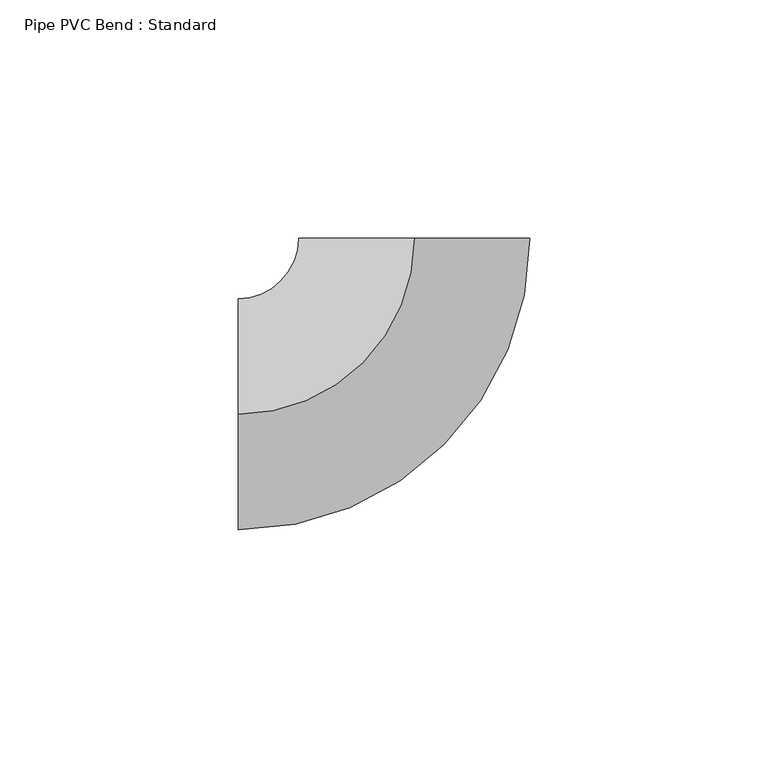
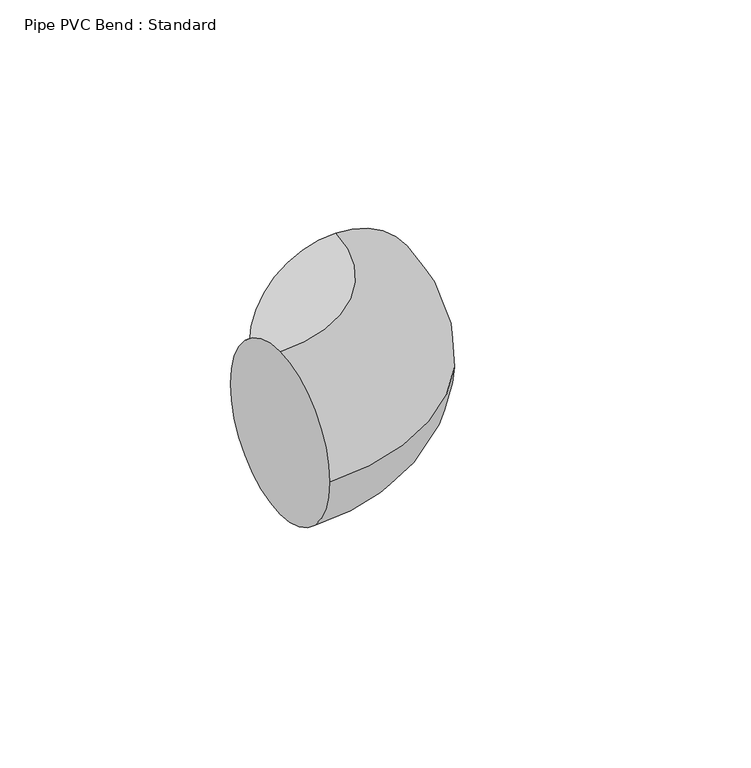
"""IFC4 building model written with IfcOpenShell, lengths in millimetres: pipe fitting geometry, Pipe PVC Bend : Standard."""

from ifc_helpers import new_model, si_unit, point, frame, origin, place, context, project, spatial, circle_curve, ellipse_curve, trimmed, source, transform, mapped, element, save
from ifc_brep_helpers import plane_surface, revolved_surface, advanced_brep


def pipe_pvc_bend_standard_46eee2b6(model_context):
    return source(origin(), model_context, "Body", "AdvancedBrep", [
        advanced_brep(
        [(-36.9550309, 0.0, 24.257), (-36.9550309, 24.257, 0.0), (-36.9550309, 0.0, -24.257), (-36.9550309, -24.257, 0.0), (0.001969, 36.9550309, 24.257), (24.258969, 36.9537384, 0.0), (0.001969, 36.9550309, -24.257), (-24.255031, 36.9563233, 0.0)],
        [
            (0, 1, circle_curve(frame((-36.9550309, 0.0, 0.0), z_axis=(-1.0, 0.0, 0.0), x_axis=(0.0, 1.0, 0.0)), 24.257)),
            (1, 2, circle_curve(frame((-36.9550309, 0.0, 0.0), z_axis=(-1.0, 0.0, 0.0), x_axis=(0.0, 1.0, 0.0)), 24.257)),
            (2, 3, circle_curve(frame((-36.9550309, 0.0, 0.0), z_axis=(-1.0, 0.0, 0.0), x_axis=(0.0, 1.0, 0.0)), 24.257)),
            (3, 0, circle_curve(frame((-36.9550309, 0.0, 0.0), z_axis=(-1.0, 0.0, 0.0), x_axis=(0.0, 1.0, 0.0)), 24.257)),
            (4, 5, circle_curve(frame((0.001969, 36.9550309, 0.0), z_axis=(5.328116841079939e-05, 0.9999999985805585, 0.0), x_axis=(-0.9999999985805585, 5.328116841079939e-05, 0.0)), 24.257)),
            (5, 6, circle_curve(frame((0.001969, 36.9550309, 0.0), z_axis=(5.328116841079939e-05, 0.9999999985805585, 0.0), x_axis=(-0.9999999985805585, 5.328116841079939e-05, 0.0)), 24.257)),
            (6, 7, circle_curve(frame((0.001969, 36.9550309, 0.0), z_axis=(5.328116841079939e-05, 0.9999999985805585, 0.0), x_axis=(-0.9999999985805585, 5.328116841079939e-05, 0.0)), 24.257)),
            (7, 4, circle_curve(frame((0.001969, 36.9550309, 0.0), z_axis=(5.328116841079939e-05, 0.9999999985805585, 0.0), x_axis=(-0.9999999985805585, 5.328116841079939e-05, 0.0)), 24.257)),
            (7, 1, circle_curve(frame((-36.9550309, 36.957, 0.0), z_axis=(0.0, 0.0, -1.0), x_axis=(0.0, -1.0, 0.0)), 12.7)),
            (0, 4, circle_curve(frame((-36.9550309, 36.957, 24.257), z_axis=(0.0, 0.0, 1.0), x_axis=(0.0, -1.0, 0.0)), 36.957)),
            (6, 2, circle_curve(frame((-36.9550309, 36.957, -24.257), z_axis=(0.0, 0.0, -1.0), x_axis=(0.0, -1.0, 0.0)), 36.957)),
            (5, 3, circle_curve(frame((-36.9550309, 36.957, 0.0), z_axis=(0.0, 0.0, -1.0), x_axis=(0.0, -1.0, 0.0)), 61.214)),
        ],
        [
            plane_surface(frame((-36.9550309, 0.0, 0.0), z_axis=(-1.0, 0.0, 0.0), x_axis=(0.0, 0.0, 1.0))),
            plane_surface(frame((0.001969, 36.9550309, 0.0), z_axis=(5.3281168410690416e-05, 0.9999999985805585, 0.0), x_axis=(0.0, 0.0, 1.0))),
            revolved_surface(trimmed(ellipse_curve(frame((-36.9550309, 0.0, 0.0), z_axis=(-1.0, 0.0, 0.0), x_axis=(0.0, 1.0, 0.0)), 24.257, 24.257), [point((-36.9550309, 0.0, 24.257))], [point((-36.9550309, 24.257, 0.0))], True, "CARTESIAN"), (-36.9550309, 36.957, 0.0), (0.0, 0.0, 1.0)),
            revolved_surface(trimmed(ellipse_curve(frame((-36.9550309, 0.0, 0.0), z_axis=(-1.0, 0.0, 0.0), x_axis=(0.0, 1.0, 0.0)), 24.257, 24.257), [point((-36.9550309, 24.257, 0.0))], [point((-36.9550309, 0.0, -24.257))], True, "CARTESIAN"), (-36.9550309, 36.957, 0.0), (0.0, 0.0, 1.0)),
            revolved_surface(trimmed(ellipse_curve(frame((-36.9550309, 0.0, 0.0), z_axis=(-1.0, 0.0, 0.0), x_axis=(0.0, 1.0, 0.0)), 24.257, 24.257), [point((-36.9550309, 0.0, -24.257))], [point((-36.9550309, -24.257, 0.0))], True, "CARTESIAN"), (-36.9550309, 36.957, 0.0), (0.0, 0.0, 1.0)),
            revolved_surface(trimmed(ellipse_curve(frame((-36.9550309, 0.0, 0.0), z_axis=(-1.0, 0.0, 0.0), x_axis=(0.0, 1.0, 0.0)), 24.257, 24.257), [point((-36.9550309, -24.257, 0.0))], [point((-36.9550309, 0.0, 24.257))], True, "CARTESIAN"), (-36.9550309, 36.957, 0.0), (0.0, 0.0, 1.0)),
        ],
        [
            (0, [[1, 2, 3, 4]]),
            (1, [[5, 6, 7, 8]]),
            (2, [[9, -1, 10, -8]]),
            (3, [[11, -2, -9, -7]]),
            (4, [[12, -3, -11, -6]]),
            (5, [[-10, -4, -12, -5]]),
        ],
    ),
        advanced_brep(
        [(-36.9550309, 0.0, 24.257), (-36.9550309, 24.257, 0.0), (-36.9550309, 0.0, -24.257), (-36.9550309, -24.257, 0.0), (0.001969, 36.9550309, 24.257), (24.258969, 36.9537384, 0.0), (0.001969, 36.9550309, -24.257), (-24.255031, 36.9563233, 0.0)],
        [
            (0, 1, circle_curve(frame((-36.9550309, 0.0, 0.0), z_axis=(-1.0, 0.0, 0.0), x_axis=(0.0, 1.0, 0.0)), 24.257)),
            (1, 2, circle_curve(frame((-36.9550309, 0.0, 0.0), z_axis=(-1.0, 0.0, 0.0), x_axis=(0.0, 1.0, 0.0)), 24.257)),
            (2, 3, circle_curve(frame((-36.9550309, 0.0, 0.0), z_axis=(-1.0, 0.0, 0.0), x_axis=(0.0, 1.0, 0.0)), 24.257)),
            (3, 0, circle_curve(frame((-36.9550309, 0.0, 0.0), z_axis=(-1.0, 0.0, 0.0), x_axis=(0.0, 1.0, 0.0)), 24.257)),
            (4, 5, circle_curve(frame((0.001969, 36.9550309, 0.0), z_axis=(5.328116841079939e-05, 0.9999999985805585, 0.0), x_axis=(-0.9999999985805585, 5.328116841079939e-05, 0.0)), 24.257)),
            (5, 6, circle_curve(frame((0.001969, 36.9550309, 0.0), z_axis=(5.328116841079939e-05, 0.9999999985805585, 0.0), x_axis=(-0.9999999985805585, 5.328116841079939e-05, 0.0)), 24.257)),
            (6, 7, circle_curve(frame((0.001969, 36.9550309, 0.0), z_axis=(5.328116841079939e-05, 0.9999999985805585, 0.0), x_axis=(-0.9999999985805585, 5.328116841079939e-05, 0.0)), 24.257)),
            (7, 4, circle_curve(frame((0.001969, 36.9550309, 0.0), z_axis=(5.328116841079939e-05, 0.9999999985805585, 0.0), x_axis=(-0.9999999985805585, 5.328116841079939e-05, 0.0)), 24.257)),
            (7, 1, circle_curve(frame((-36.9550309, 36.957, 0.0), z_axis=(0.0, 0.0, -1.0), x_axis=(0.0, -1.0, 0.0)), 12.7)),
            (0, 4, circle_curve(frame((-36.9550309, 36.957, 24.257), z_axis=(0.0, 0.0, 1.0), x_axis=(0.0, -1.0, 0.0)), 36.957)),
            (6, 2, circle_curve(frame((-36.9550309, 36.957, -24.257), z_axis=(0.0, 0.0, -1.0), x_axis=(0.0, -1.0, 0.0)), 36.957)),
            (5, 3, circle_curve(frame((-36.9550309, 36.957, 0.0), z_axis=(0.0, 0.0, -1.0), x_axis=(0.0, -1.0, 0.0)), 61.214)),
        ],
        [
            plane_surface(frame((-36.9550309, 0.0, 0.0), z_axis=(-1.0, 0.0, 0.0), x_axis=(0.0, 0.0, 1.0))),
            plane_surface(frame((0.001969, 36.9550309, 0.0), z_axis=(5.3281168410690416e-05, 0.9999999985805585, 0.0), x_axis=(0.0, 0.0, 1.0))),
            revolved_surface(trimmed(ellipse_curve(frame((-36.9550309, 0.0, 0.0), z_axis=(-1.0, 0.0, 0.0), x_axis=(0.0, 1.0, 0.0)), 24.257, 24.257), [point((-36.9550309, 0.0, 24.257))], [point((-36.9550309, 24.257, 0.0))], True, "CARTESIAN"), (-36.9550309, 36.957, 0.0), (0.0, 0.0, 1.0)),
            revolved_surface(trimmed(ellipse_curve(frame((-36.9550309, 0.0, 0.0), z_axis=(-1.0, 0.0, 0.0), x_axis=(0.0, 1.0, 0.0)), 24.257, 24.257), [point((-36.9550309, 24.257, 0.0))], [point((-36.9550309, 0.0, -24.257))], True, "CARTESIAN"), (-36.9550309, 36.957, 0.0), (0.0, 0.0, 1.0)),
            revolved_surface(trimmed(ellipse_curve(frame((-36.9550309, 0.0, 0.0), z_axis=(-1.0, 0.0, 0.0), x_axis=(0.0, 1.0, 0.0)), 24.257, 24.257), [point((-36.9550309, 0.0, -24.257))], [point((-36.9550309, -24.257, 0.0))], True, "CARTESIAN"), (-36.9550309, 36.957, 0.0), (0.0, 0.0, 1.0)),
            revolved_surface(trimmed(ellipse_curve(frame((-36.9550309, 0.0, 0.0), z_axis=(-1.0, 0.0, 0.0), x_axis=(0.0, 1.0, 0.0)), 24.257, 24.257), [point((-36.9550309, -24.257, 0.0))], [point((-36.9550309, 0.0, 24.257))], True, "CARTESIAN"), (-36.9550309, 36.957, 0.0), (0.0, 0.0, 1.0)),
        ],
        [
            (0, [[1, 2, 3, 4]]),
            (1, [[5, 6, 7, 8]]),
            (2, [[9, -1, 10, -8]]),
            (3, [[11, -2, -9, -7]]),
            (4, [[12, -3, -11, -6]]),
            (5, [[-10, -4, -12, -5]]),
        ],
    ),
    ])


if __name__ == "__main__":
    model = new_model("IFC4")
    model_context = context("Model", 3, world=origin())
    ifc_project = project(units=[si_unit("LENGTHUNIT", "METRE", prefix="MILLI")], contexts=[model_context])
    site = spatial("IfcSite", under=ifc_project)
    building = spatial("IfcBuilding", under=site)
    placement = place(None, origin())
    pipe_pvc_bend_standard_shape = pipe_pvc_bend_standard_46eee2b6(model_context)
    element("IfcPipeFitting", 1, ObjectType="Pipe PVC Bend : Standard", at=placement, inside=building, context=model_context, shape_type="MappedRepresentation", body=[
        mapped(pipe_pvc_bend_standard_shape, transform((0.0, 0.0, 0.0), x_axis=(1.0, 0.0, 0.0), y_axis=(0.0, 1.0, 0.0), z_axis=(0.0, 0.0, 1.0))),
    ])
    save(model, "model.ifc")
